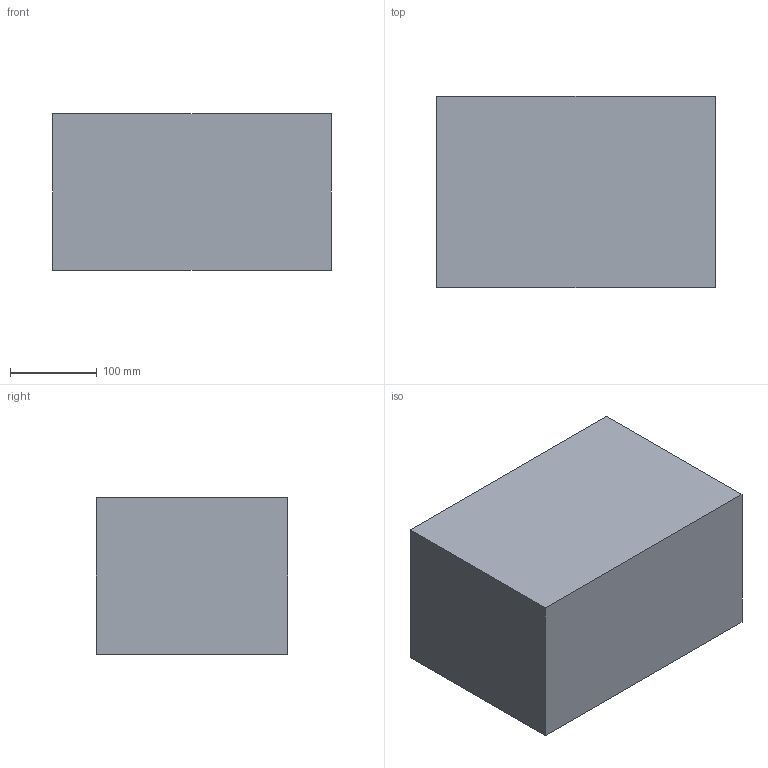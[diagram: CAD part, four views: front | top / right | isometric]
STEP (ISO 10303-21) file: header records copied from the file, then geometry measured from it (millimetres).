
FILE_DESCRIPTION(('Open CASCADE Model'),'2;1');
FILE_NAME('Open CASCADE Shape Model','2026-10-19T10:09:20',('Author'),( 'Open CASCADE'),'Open CASCADE STEP processor 8.0','Open CASCADE 8.0' ,'Unknown');
FILE_SCHEMA(('AUTOMOTIVE_DESIGN { 1 0 10303 214 1 1 1 1 }'));
Length unit declared in the file: millimetre
Products named in the file (1): CARRO_MOTORIZADO_REFERENCIA 68
Bounding box: 320 x 220 x 180 mm (x, y, z)
Volume: 12672000 mm3; surface area: 335200 mm2
Topology: 1 solids, 1 shells, 6 faces, 12 edges, 8 vertices
Faces by surface type: plane 6
Entity records: 322 total; most frequent: CARTESIAN_POINT 51, DIRECTION 50, LINE 36, VECTOR 36, ORIENTED_EDGE 24, PCURVE 24, DEFINITIONAL_REPRESENTATION 24, EDGE_CURVE 12
